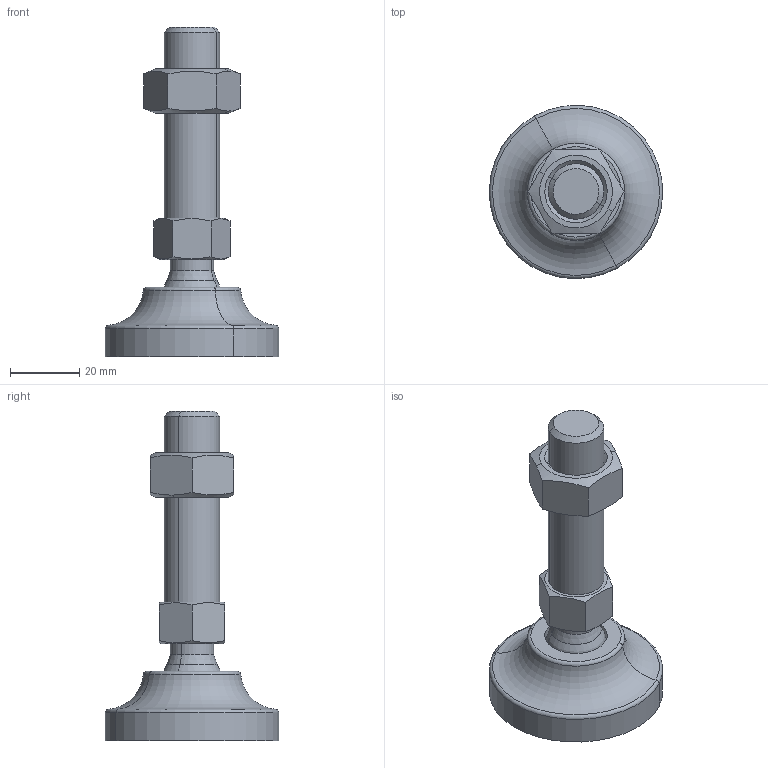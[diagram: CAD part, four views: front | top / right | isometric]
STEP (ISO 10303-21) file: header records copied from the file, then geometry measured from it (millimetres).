
FILE_DESCRIPTION(('CATIA V5 STEP Exchange'),'2;1');
FILE_NAME('C:\Users\ALI OZGUN\Desktop\alhan\saplama2\560501610.stp','2017-09-21T10:33:17+00:00',('none'),('none'),'CATIA Version 5 Release 21 GA (IN-10)','CATIA V5 STEP AP203','none');
FILE_SCHEMA(('CONFIG_CONTROL_DESIGN'));
Length unit declared in the file: millimetre
Products named in the file (1): 560501610
Bounding box: 49.99 x 49.99 x 95 mm (x, y, z)
Volume: 39756 mm3; surface area: 13969.9 mm2
Topology: 3 solids, 3 shells, 60 faces, 136 edges, 83 vertices
Faces by surface type: plane 20, cone 16, cylinder 14, torus 6, revolution 2, sphere 2
Entity records: 1852 total; most frequent: CARTESIAN_POINT 610, ORIENTED_EDGE 268, DIRECTION 186, EDGE_CURVE 134, AXIS2_PLACEMENT_3D 100, VERTEX_POINT 83, EDGE_LOOP 67, ADVANCED_FACE 60
